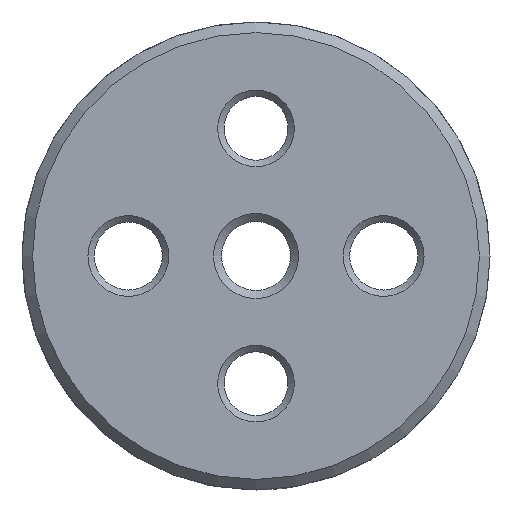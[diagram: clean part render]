
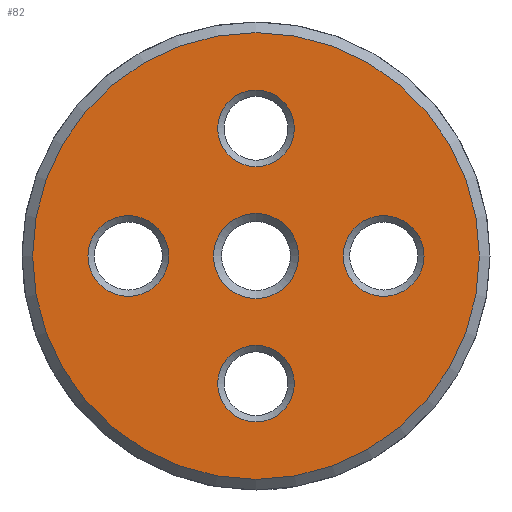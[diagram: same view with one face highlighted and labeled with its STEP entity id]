
A CAD part, front view. The second image highlights one B-rep face of the part: STEP entity #82.
In plain terms, the highlighted planar face has unit normal (0, -1, 0).
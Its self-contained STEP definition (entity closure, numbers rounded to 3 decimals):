
#82 = ADVANCED_FACE( '', ( #125, #126, #127, #128, #129, #130 ), #131, .F. );
#125 = FACE_BOUND( '', #218, .T. );
#126 = FACE_BOUND( '', #219, .T. );
#127 = FACE_BOUND( '', #220, .T. );
#128 = FACE_BOUND( '', #221, .T. );
#129 = FACE_BOUND( '', #222, .T. );
#130 = FACE_OUTER_BOUND( '', #223, .T. );
#131 = PLANE( '', #224 );
#218 = EDGE_LOOP( '', ( #357 ) );
#219 = EDGE_LOOP( '', ( #358 ) );
#220 = EDGE_LOOP( '', ( #359 ) );
#221 = EDGE_LOOP( '', ( #360 ) );
#222 = EDGE_LOOP( '', ( #361 ) );
#223 = EDGE_LOOP( '', ( #362 ) );
#224 = AXIS2_PLACEMENT_3D( '', #363, #364, #365 );
#357 = ORIENTED_EDGE( '', *, *, #553, .F. );
#358 = ORIENTED_EDGE( '', *, *, #554, .F. );
#359 = ORIENTED_EDGE( '', *, *, #555, .F. );
#360 = ORIENTED_EDGE( '', *, *, #556, .F. );
#361 = ORIENTED_EDGE( '', *, *, #557, .F. );
#362 = ORIENTED_EDGE( '', *, *, #552, .T. );
#363 = CARTESIAN_POINT( '', ( 10.5, 0., 0. ) );
#364 = DIRECTION( '', ( 0., 1., 0. ) );
#365 = DIRECTION( '', ( 0., 0., 1. ) );
#552 = EDGE_CURVE( '', #640, #640, #641, .T. );
#553 = EDGE_CURVE( '', #642, #642, #643, .T. );
#554 = EDGE_CURVE( '', #644, #644, #645, .F. );
#555 = EDGE_CURVE( '', #646, #646, #647, .T. );
#556 = EDGE_CURVE( '', #648, #648, #649, .T. );
#557 = EDGE_CURVE( '', #650, #650, #651, .T. );
#640 = VERTEX_POINT( '', #856 );
#641 = CIRCLE( '', #857, 10.5 );
#642 = VERTEX_POINT( '', #858 );
#643 = CIRCLE( '', #859, 2. );
#644 = VERTEX_POINT( '', #860 );
#645 = CIRCLE( '', #861, 1.9 );
#646 = VERTEX_POINT( '', #862 );
#647 = CIRCLE( '', #863, 1.8 );
#648 = VERTEX_POINT( '', #864 );
#649 = CIRCLE( '', #865, 1.8 );
#650 = VERTEX_POINT( '', #866 );
#651 = CIRCLE( '', #867, 1.9 );
#856 = CARTESIAN_POINT( '', ( 0., 0., -10.5 ) );
#857 = AXIS2_PLACEMENT_3D( '', #980, #981, #982 );
#858 = CARTESIAN_POINT( '', ( 0., 0., -2. ) );
#859 = AXIS2_PLACEMENT_3D( '', #983, #984, #985 );
#860 = CARTESIAN_POINT( '', ( 6., 0., 1.9 ) );
#861 = AXIS2_PLACEMENT_3D( '', #986, #987, #988 );
#862 = CARTESIAN_POINT( '', ( 0., 0., 4.2 ) );
#863 = AXIS2_PLACEMENT_3D( '', #989, #990, #991 );
#864 = CARTESIAN_POINT( '', ( 0., 0., -7.8 ) );
#865 = AXIS2_PLACEMENT_3D( '', #992, #993, #994 );
#866 = CARTESIAN_POINT( '', ( -6., 0., -1.9 ) );
#867 = AXIS2_PLACEMENT_3D( '', #995, #996, #997 );
#980 = CARTESIAN_POINT( '', ( 0., 0., 0. ) );
#981 = DIRECTION( '', ( 0., -1., 0. ) );
#982 = DIRECTION( '', ( 0., 0., -1. ) );
#983 = CARTESIAN_POINT( '', ( 0., 0., 0. ) );
#984 = DIRECTION( '', ( 0., -1., 0. ) );
#985 = DIRECTION( '', ( 0., 0., -1. ) );
#986 = CARTESIAN_POINT( '', ( 6., 0., 0. ) );
#987 = DIRECTION( '', ( 0., 1., 0. ) );
#988 = DIRECTION( '', ( 0., 0., 1. ) );
#989 = CARTESIAN_POINT( '', ( 0., 0., 6. ) );
#990 = DIRECTION( '', ( 0., -1., 0. ) );
#991 = DIRECTION( '', ( 0., 0., -1. ) );
#992 = CARTESIAN_POINT( '', ( 0., 0., -6. ) );
#993 = DIRECTION( '', ( 0., -1., 0. ) );
#994 = DIRECTION( '', ( 0., 0., -1. ) );
#995 = CARTESIAN_POINT( '', ( -6., 0., 0. ) );
#996 = DIRECTION( '', ( 0., -1., 0. ) );
#997 = DIRECTION( '', ( 0., 0., -1. ) );
